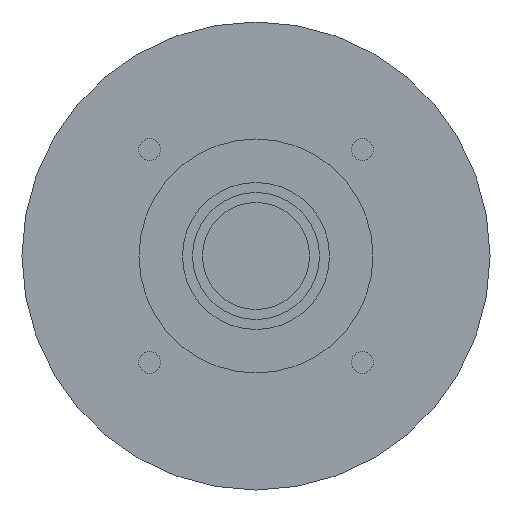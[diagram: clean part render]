
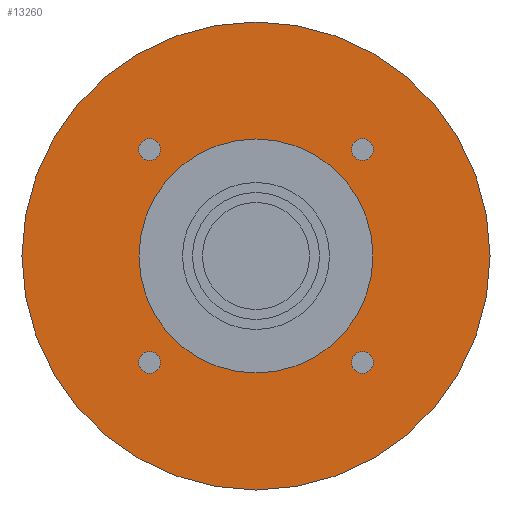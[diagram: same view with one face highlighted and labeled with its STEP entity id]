
A CAD part, left-side view. The second image highlights one B-rep face of the part: STEP entity #13260.
In plain terms, the highlighted planar face has unit normal (-1, 0, 0) as drawn and (0, 0, -1) by its records, which use the part's own axes.
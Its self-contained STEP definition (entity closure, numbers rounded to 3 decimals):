
#12100=CARTESIAN_POINT('',(-28.57,31.82,-79.7));
#12110=VERTEX_POINT('',#12100);
#12140=CARTESIAN_POINT('',(-31.82,31.82,-79.7));
#12150=DIRECTION('',(0.,0.,-1.));
#12160=DIRECTION('',(-1.,0.,0.));
#12170=AXIS2_PLACEMENT_3D('',#12140,#12150,#12160);
#12180=CIRCLE('',#12170,3.25);
#12190=CARTESIAN_POINT('',(-35.07,31.82,-79.7));
#12200=VERTEX_POINT('',#12190);
#12210=EDGE_CURVE('',#12200,#12110,#12180,.T.);
#12330=CARTESIAN_POINT('',(0.,0.,
-79.7));
#12340=DIRECTION('',(0.,0.,-1.));
#12350=DIRECTION('',(1.,0.,0.));
#12360=AXIS2_PLACEMENT_3D('',#12330,#12340,#12350);
#12370=PLANE('',#12360);
#12380=ORIENTED_EDGE('',*,*,#12210,.F.);
#12390=EDGE_CURVE('',#12110,#12200,#12180,.T.);
#12400=ORIENTED_EDGE('',*,*,#12390,.F.);
#12410=EDGE_LOOP('',(#12400,#12380));
#12420=FACE_BOUND('',#12410,.T.);
#12430=CARTESIAN_POINT('',(-31.82,-31.82,-79.7));
#12440=DIRECTION('',(0.,0.,-1.));
#12450=DIRECTION('',(0.,-1.,0.));
#12460=AXIS2_PLACEMENT_3D('',#12430,#12440,#12450);
#12470=CIRCLE('',#12460,3.25);
#12480=CARTESIAN_POINT('',(-31.82,-35.07,-79.7));
#12490=VERTEX_POINT('',#12480);
#12500=CARTESIAN_POINT('',(-31.82,-28.57,-79.7));
#12510=VERTEX_POINT('',#12500);
#12520=EDGE_CURVE('',#12490,#12510,#12470,.T.);
#12530=ORIENTED_EDGE('',*,*,#12520,.F.);
#12540=EDGE_CURVE('',#12510,#12490,#12470,.T.);
#12550=ORIENTED_EDGE('',*,*,#12540,.F.);
#12560=EDGE_LOOP('',(#12550,#12530));
#12570=FACE_BOUND('',#12560,.T.);
#12580=CARTESIAN_POINT('',(0.,0.,
-79.7));
#12590=DIRECTION('',(0.,0.,1.));
#12600=DIRECTION('',(0.,1.,0.));
#12610=AXIS2_PLACEMENT_3D('',#12580,#12590,#12600);
#12620=CIRCLE('',#12610,35.);
#12630=CARTESIAN_POINT('',(-35.,0.,-79.7));
#12640=VERTEX_POINT('',#12630);
#12650=CARTESIAN_POINT('',(35.,0.,-79.7));
#12660=VERTEX_POINT('',#12650);
#12670=EDGE_CURVE('',#12640,#12660,#12620,.T.);
#12680=ORIENTED_EDGE('',*,*,#12670,.T.);
#12690=CARTESIAN_POINT('',(0.,35.,-79.7));
#12700=VERTEX_POINT('',#12690);
#12710=EDGE_CURVE('',#12700,#12640,#12620,.T.);
#12720=ORIENTED_EDGE('',*,*,#12710,.T.);
#12730=EDGE_CURVE('',#12660,#12700,#12620,.T.);
#12740=ORIENTED_EDGE('',*,*,#12730,.T.);
#12750=EDGE_LOOP('',(#12740,#12720,#12680));
#12760=FACE_BOUND('',#12750,.T.);
#12770=CARTESIAN_POINT('',(31.82,-31.82,-79.7));
#12780=DIRECTION('',(0.,0.,-1.));
#12790=DIRECTION('',(1.,0.,0.));
#12800=AXIS2_PLACEMENT_3D('',#12770,#12780,#12790);
#12810=CIRCLE('',#12800,3.25);
#12820=CARTESIAN_POINT('',(35.07,-31.82,-79.7));
#12830=VERTEX_POINT('',#12820);
#12840=CARTESIAN_POINT('',(28.57,-31.82,-79.7));
#12850=VERTEX_POINT('',#12840);
#12860=EDGE_CURVE('',#12830,#12850,#12810,.T.);
#12870=ORIENTED_EDGE('',*,*,#12860,.F.);
#12880=EDGE_CURVE('',#12850,#12830,#12810,.T.);
#12890=ORIENTED_EDGE('',*,*,#12880,.F.);
#12900=EDGE_LOOP('',(#12890,#12870));
#12910=FACE_BOUND('',#12900,.T.);
#12920=CARTESIAN_POINT('',(31.82,31.82,-79.7));
#12930=DIRECTION('',(0.,0.,-1.));
#12940=DIRECTION('',(0.,1.,0.));
#12950=AXIS2_PLACEMENT_3D('',#12920,#12930,#12940);
#12960=CIRCLE('',#12950,3.25);
#12970=CARTESIAN_POINT('',(31.82,35.07,-79.7));
#12980=VERTEX_POINT('',#12970);
#12990=CARTESIAN_POINT('',(31.82,28.57,-79.7));
#13000=VERTEX_POINT('',#12990);
#13010=EDGE_CURVE('',#12980,#13000,#12960,.T.);
#13020=ORIENTED_EDGE('',*,*,#13010,.F.);
#13030=EDGE_CURVE('',#13000,#12980,#12960,.T.);
#13040=ORIENTED_EDGE('',*,*,#13030,.F.);
#13050=EDGE_LOOP('',(#13040,#13020));
#13060=FACE_BOUND('',#13050,.T.);
#13070=CARTESIAN_POINT('',(0.,0.,
-79.7));
#13080=DIRECTION('',(0.,0.,-1.));
#13090=DIRECTION('',(0.,-1.,0.));
#13100=AXIS2_PLACEMENT_3D('',#13070,#13080,#13090);
#13110=CIRCLE('',#13100,70.);
#13120=CARTESIAN_POINT('',(-70.,0.,-79.7));
#13130=VERTEX_POINT('',#13120);
#13140=CARTESIAN_POINT('',(70.,0.,-79.7));
#13150=VERTEX_POINT('',#13140);
#13160=EDGE_CURVE('',#13130,#13150,#13110,.T.);
#13170=ORIENTED_EDGE('',*,*,#13160,.T.);
#13180=CARTESIAN_POINT('',(0.,-70.,-79.7));
#13190=VERTEX_POINT('',#13180);
#13200=EDGE_CURVE('',#13190,#13130,#13110,.T.);
#13210=ORIENTED_EDGE('',*,*,#13200,.T.);
#13220=EDGE_CURVE('',#13150,#13190,#13110,.T.);
#13230=ORIENTED_EDGE('',*,*,#13220,.T.);
#13240=EDGE_LOOP('',(#13230,#13210,#13170));
#13250=FACE_OUTER_BOUND('',#13240,.T.);
#13260=ADVANCED_FACE('',(#12420,#12570,#12760,#12910,#13060,#13250),
#12370,.T.);
